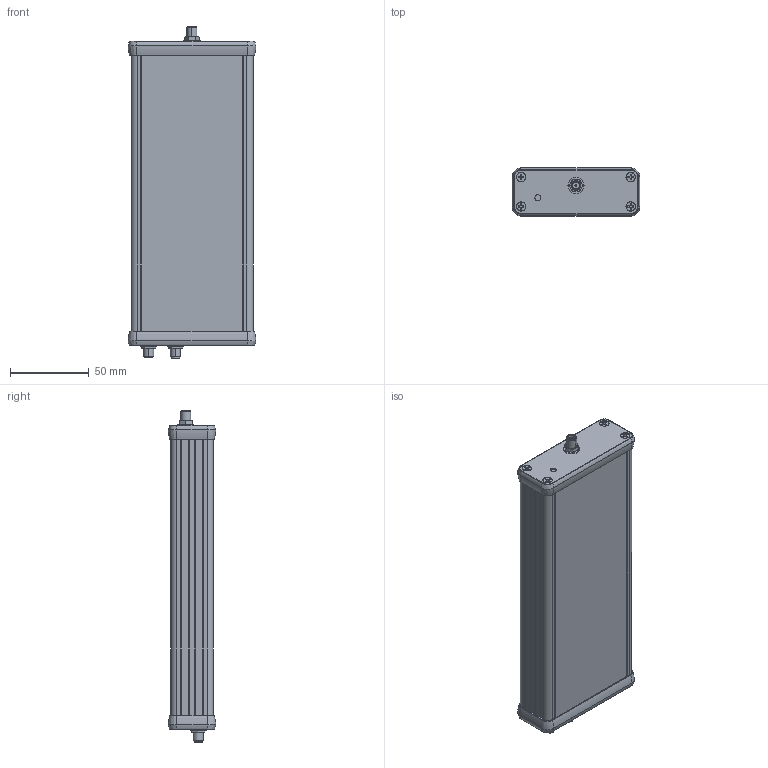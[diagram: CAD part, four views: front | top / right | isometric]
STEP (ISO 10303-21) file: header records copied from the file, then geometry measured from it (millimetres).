
FILE_DESCRIPTION (( 'STEP AP214' ), '1' );
FILE_NAME ('BB60D_defeatured_new.step', '2026-03-01T06:36:38', ( '' ), ( '' ), 'SwSTEP 2.0', 'SolidWorks 2026', '' );
FILE_SCHEMA (( 'AUTOMOTIVE_DESIGN' ));
Length unit declared in the file: inch
Products named in the file (1): BB60D_defeatured_new
Bounding box: 81.13 x 30.13 x 210.63 mm (x, y, z)
Volume: 405847 mm3; surface area: 45351.1 mm2
Topology: 1 solids, 1 shells, 545 faces, 1380 edges, 881 vertices
Faces by surface type: plane 243, cone 134, cylinder 128, torus 24, bspline 16
Entity records: 16211 total; most frequent: CARTESIAN_POINT 3522, ORIENTED_EDGE 2748, DIRECTION 2653, EDGE_CURVE 1374, AXIS2_PLACEMENT_3D 1025, VERTEX_POINT 881, VECTOR 603, LINE 603
